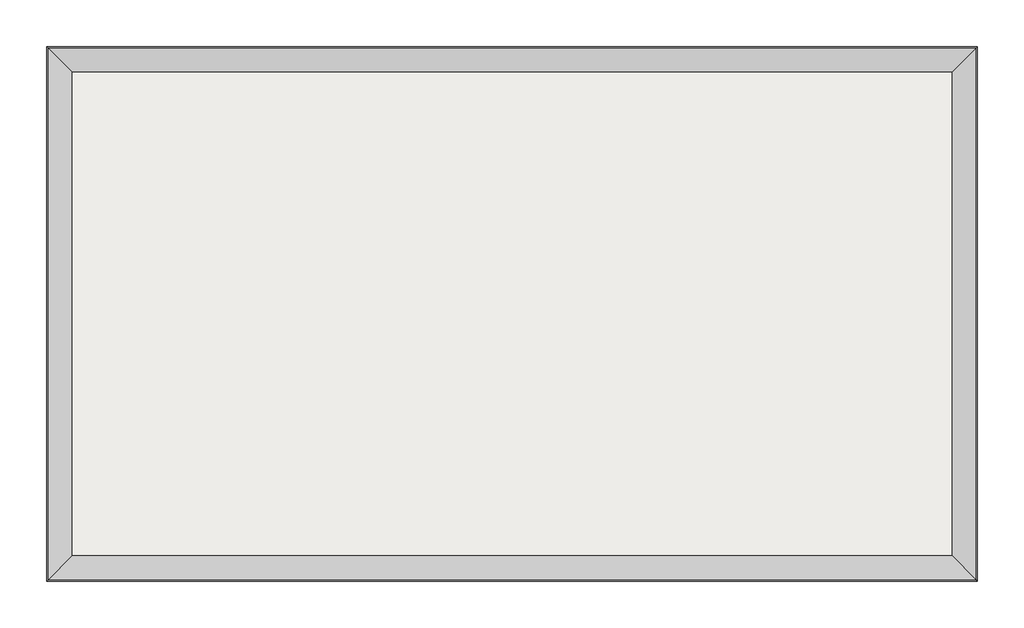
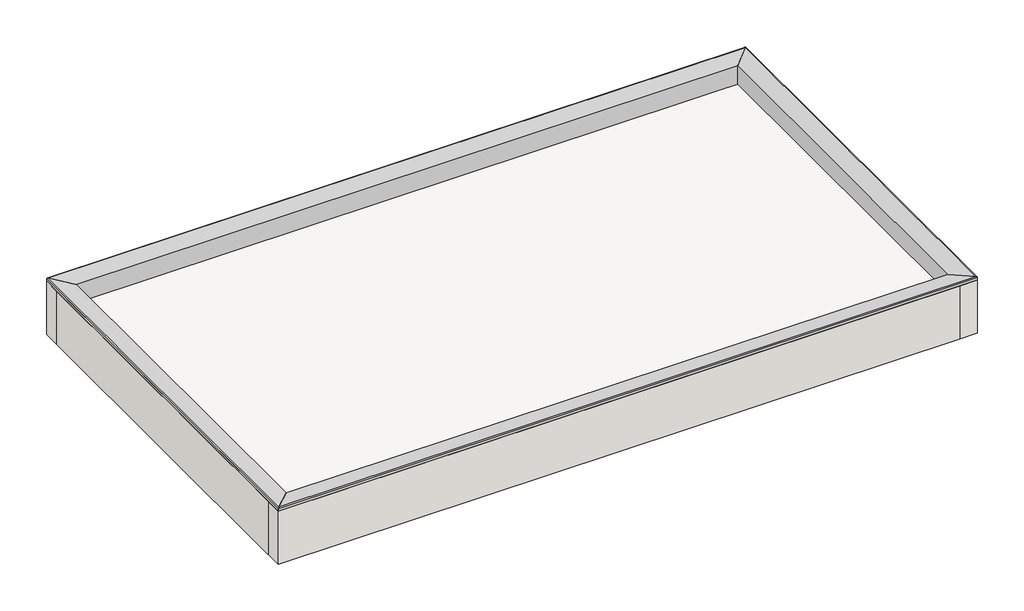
# One storey: 8 proxies, 4 walls, 1 slab.
"""IFC4 building model written with IfcOpenShell, lengths in millimetres."""

import ifcopenshell
import ifcopenshell.guid

model = None  # the IFC model being written
_history = None  # IfcOwnerHistory: only IFC2X3 demands one
_inside = {}  # id of a spatial element -> (the spatial element, [elements in it])
_under = {}  # id of a project, library or spatial element -> (it, [spatial elements below it])
_declared = {}  # id of a project -> (the project, [libraries it declares])
_typed = {}  # id of a type object -> (the type object, [elements of that type])
_made_of = {}  # id of a material, layer set ... -> (it, [elements and type objects made of it])


def new_model(schema):
    """Start an empty IFC model of exactly this schema.

    Asked for "IFC4X3", IfcOpenShell would pick the latest addendum, in which some entities
    have other attributes; the version numbers below select the first issue.
    IFC2X3 requires an IfcOwnerHistory on every rooted entity: one is made here for all.
    """
    global model, _history
    if schema == "IFC4X3":
        model = ifcopenshell.file(schema_version=(4, 3, 0, 0))
    else:
        model = ifcopenshell.file(schema=schema)
    _inside.clear()
    _under.clear()
    _declared.clear()
    _typed.clear()
    _made_of.clear()
    _history = None
    if model.schema == "IFC2X3":
        org = make("IfcOrganization", Name="unknown")
        user = make(
            "IfcPersonAndOrganization",
            ThePerson=make("IfcPerson", FamilyName="unknown"),
            TheOrganization=org,
        )
        app = make(
            "IfcApplication",
            ApplicationDeveloper=org,
            Version="unknown",
            ApplicationFullName="unknown",
            ApplicationIdentifier="unknown",
        )
        _history = make(
            "IfcOwnerHistory",
            OwningUser=user,
            OwningApplication=app,
            ChangeAction="ADDED",
            CreationDate=0,
        )
    return model


def make(cls, **values):
    """One entity of the class cls with the attributes given. An attribute that is None is left unset."""
    return model.create_entity(
        cls, **{name: value for name, value in values.items() if value is not None}
    )


def rooted(cls, **values):
    """An entity with a GlobalId (a new one), such as an element, a storey or a relation."""
    return make(cls, GlobalId=ifcopenshell.guid.new(), OwnerHistory=_history, **values)


def si_unit(unit_type, name, prefix=None):
    """IfcSIUnit, for example si_unit("LENGTHUNIT", "METRE", prefix="MILLI")."""
    return make("IfcSIUnit", UnitType=unit_type, Prefix=prefix, Name=name)


def assignment(units):
    """IfcUnitAssignment: the units of a project."""
    return None if units is None else make("IfcUnitAssignment", Units=units)


def point(xyz):
    """IfcCartesianPoint."""
    return None if xyz is None else make("IfcCartesianPoint", Coordinates=xyz)


def direction(xyz):
    """IfcDirection."""
    return None if xyz is None else make("IfcDirection", DirectionRatios=xyz)


def frame(location, z_axis=None, x_axis=None):
    """IfcAxis2Placement3D, a coordinate frame: its origin and axes. An axis left out is left unset."""
    return make(
        "IfcAxis2Placement3D",
        Location=point(location),
        Axis=direction(z_axis),
        RefDirection=direction(x_axis),
    )


def origin():
    """The frame at (0, 0, 0) with its axes left unset."""
    return frame((0.0, 0.0, 0.0))


def place(relative_to, where):
    """IfcLocalPlacement: puts the frame where relative to a parent placement (None: the world)."""
    return make(
        "IfcLocalPlacement", PlacementRelTo=relative_to, RelativePlacement=where
    )


def context(
    kind, dimensions, precision=None, world=None, true_north=None, identifier=None
):
    """IfcGeometricRepresentationContext, for example the 3D "Model" context."""
    return make(
        "IfcGeometricRepresentationContext",
        ContextIdentifier=identifier,
        ContextType=kind,
        CoordinateSpaceDimension=dimensions,
        Precision=precision,
        WorldCoordinateSystem=world,
        TrueNorth=true_north,
    )


def project(units=None, contexts=None):
    """IfcProject with its units and contexts."""
    return rooted(
        "IfcProject",
        Name="project",
        RepresentationContexts=contexts,
        UnitsInContext=assignment(units),
    )


def spatial(cls, under=None, at=None, **own):
    """A site, building, storey or space (cls), placed at a placement, below another one or the project."""
    s = rooted(cls, ObjectPlacement=at, **own)
    if under is not None:
        _under.setdefault(under.id(), (under, []))[1].append(s)
    return s


def polyline(points):
    """IfcPolyline through the points."""
    return make("IfcPolyline", Points=[point(p) for p in points])


def ellipse_curve(where, semi_axis1, semi_axis2):
    """IfcEllipse in the frame where."""
    return make(
        "IfcEllipse", Position=where, SemiAxis1=semi_axis1, SemiAxis2=semi_axis2
    )


def outline(outer, holes=None, kind="AREA"):
    """IfcArbitraryClosedProfileDef: a profile drawn as a closed curve; with holes, ...WithVoids."""
    if holes is None:
        return make("IfcArbitraryClosedProfileDef", ProfileType=kind, OuterCurve=outer)
    return make(
        "IfcArbitraryProfileDefWithVoids",
        ProfileType=kind,
        OuterCurve=outer,
        InnerCurves=holes,
    )


def extrude(swept, where, along, depth):
    """IfcExtrudedAreaSolid: the profile swept, set in the frame where, extruded along a direction by depth."""
    return make(
        "IfcExtrudedAreaSolid",
        SweptArea=swept,
        Position=where,
        ExtrudedDirection=direction(along),
        Depth=depth,
    )


def faces_of(points, faces, orient=None, outer=None):
    """IfcFace entities. A face is a list of loops; a loop is a list of indices into points, from 0.

    orient and outer hold one flag for each loop. By default every Orientation is true, the
    first loop of a face is its IfcFaceOuterBound and the others are IfcFaceBound.
    """
    made = []
    for i, loops in enumerate(faces):
        bounds = []
        for j, loop in enumerate(loops):
            is_outer = j == 0 if outer is None else outer[i][j]
            bounds.append(
                make(
                    "IfcFaceOuterBound" if is_outer else "IfcFaceBound",
                    Bound=make("IfcPolyLoop", Polygon=[points[k] for k in loop]),
                    Orientation=True if orient is None else orient[i][j],
                )
            )
        made.append(make("IfcFace", Bounds=bounds))
    return made


def faceted_brep(points, faces, orient=None, outer=None, voids=None):
    """IfcFacetedBrep: a solid bounded by flat faces; with voids (closed shells), ...WithVoids."""
    shared = [point(p) for p in points]
    hull = make("IfcClosedShell", CfsFaces=faces_of(shared, faces, orient, outer))
    if voids is None:
        return make("IfcFacetedBrep", Outer=hull)
    return make(
        "IfcFacetedBrepWithVoids",
        Outer=hull,
        Voids=[
            make(cls, CfsFaces=faces_of(shared, fs, o, b)) for cls, fs, o, b in voids
        ],
    )


def shape(context_of_items, identifier, shape_type, items):
    """IfcShapeRepresentation: the items that make up one representation, for example the "Body"."""
    return make(
        "IfcShapeRepresentation",
        ContextOfItems=context_of_items,
        RepresentationIdentifier=identifier,
        RepresentationType=shape_type,
        Items=items,
    )


def made_of(thing, what):
    """Note that an element or type object is made of a material, layer set ...; save() writes the relation."""
    if what is not None:
        _made_of.setdefault(what.id(), (what, []))[1].append(thing)
    return thing


def element(
    cls,
    number,
    at=None,
    inside=None,
    cuts=None,
    type_object=None,
    material=None,
    context=None,
    identifier="Body",
    shape_type=None,
    held_by="IfcProductDefinitionShape",
    body=None,
    shapes=None,
    **own,
):
    """One element of the class cls, such as IfcWall. Its Tag is "e" and its number.

    at: its placement. inside: the storey or other place that contains it. cuts: it is an
    opening in that element (IfcRelVoidsElement). A single representation is given by context,
    identifier, shape_type and body (its items); several are given by shapes. held_by: the class
    of the entity that holds the representations. save() writes the other relations.
    """
    e = rooted(cls, Tag="e%d" % number, ObjectPlacement=at, **own)
    if body is not None:
        shapes = [shape(context, identifier, shape_type, body)]
    if shapes is not None:
        e.Representation = make(held_by, Representations=shapes)
    if inside is not None:
        _inside.setdefault(inside.id(), (inside, []))[1].append(e)
    if cuts is not None:
        rooted(
            "IfcRelVoidsElement", RelatingBuildingElement=cuts, RelatedOpeningElement=e
        )
    if type_object is not None:
        _typed.setdefault(type_object.id(), (type_object, []))[1].append(e)
    return made_of(e, material)


def aggregate(whole, parts):
    """IfcRelAggregates: a whole, such as a stair, and the parts it consists of."""
    return rooted("IfcRelAggregates", RelatingObject=whole, RelatedObjects=parts)


def save(model, path):
    """Write the relations noted so far, then the file.

    IfcRelAggregates (storeys below a building ...), IfcRelContainedInSpatialStructure (elements
    in a storey), IfcRelDefinesByType, IfcRelAssociatesMaterial and IfcRelDeclares: one each for
    every whole, place, type object, material and project.
    """
    for whole, parts in _under.values():
        aggregate(whole, parts)
    for where, things in _inside.values():
        rooted(
            "IfcRelContainedInSpatialStructure",
            RelatedElements=things,
            RelatingStructure=where,
        )
    for kind, things in _typed.values():
        rooted("IfcRelDefinesByType", RelatedObjects=things, RelatingType=kind)
    for what, things in _made_of.values():
        rooted("IfcRelAssociatesMaterial", RelatedObjects=things, RelatingMaterial=what)
    for by, libraries in _declared.values():
        rooted("IfcRelDeclares", RelatingContext=by, RelatedDefinitions=libraries)
    model.write(path)


def plane_surface(at):
    """IfcPlane: the flat surface through the origin of the frame at, square to its z axis."""
    return make("IfcPlane", Position=at)


def cylinder_surface(at, radius):
    """IfcCylindricalSurface: all points at the distance radius from the z axis of the frame at."""
    return make("IfcCylindricalSurface", Position=at, Radius=radius)


def advanced_brep(points, edges, surfaces, faces):
    """IfcAdvancedBrep: a solid bounded by faces that lie on surfaces and meet in shared edges.

    An edge is (start, end): straight between two places in points (the first is 0);
    or (start, end, curve); or (start, end, curve, False) where it runs against its curve.
    A face is (place in surfaces, loops), or (place, loops, False) where it looks against
    its surface's normal. A loop lists edges by number (the first is 1), with a minus sign
    where the edge is run from its end to its start. The first loop is the outer one.
    """
    corners = [point(p) for p in points]
    vertices = [make("IfcVertexPoint", VertexGeometry=c) for c in corners]
    made = []
    for start, end, *more in edges:
        made.append(
            make(
                "IfcEdgeCurve",
                EdgeStart=vertices[start],
                EdgeEnd=vertices[end],
                EdgeGeometry=more[0] if more else make("IfcPolyline", Points=[corners[start], corners[end]]),
                SameSense=more[1] if len(more) > 1 else True,
            )
        )
    hull = []
    for where, loops, *sense in faces:
        bounds = []
        for j, loop in enumerate(loops):
            ring = [make("IfcOrientedEdge", EdgeElement=made[abs(k) - 1], Orientation=k > 0) for k in loop]
            bounds.append(
                make(
                    "IfcFaceOuterBound" if j == 0 else "IfcFaceBound",
                    Bound=make("IfcEdgeLoop", EdgeList=ring),
                    Orientation=True,
                )
            )
        hull.append(make("IfcAdvancedFace", Bounds=bounds, FaceSurface=surfaces[where], SameSense=sense[0] if sense else True))
    return make("IfcAdvancedBrep", Outer=make("IfcClosedShell", CfsFaces=hull))


model = new_model("IFC4")

# Units and contexts
model_context = context("Model", 3, world=origin())
ifc_project = project(units=[si_unit("LENGTHUNIT", "METRE", prefix="MILLI")], contexts=[model_context])

# Site, building, storey
site = spatial("IfcSite", under=ifc_project)
building = spatial("IfcBuilding", under=site)
storey = spatial("IfcBuildingStorey", under=building, Name="PHRFL", Elevation=13300.0)

# Proxies
placement = place(None, origin())
element("IfcBuildingElementProxy", 1, Name="Wall Sweeps", at=placement, inside=storey, context=model_context, shape_type="Brep", body=[
    faceted_brep([(10830.0, 9450.0, 13598.0), (10830.0, 9450.0, 13580.0), (10965.0, 9315.0, 13580.0), (16175.0, 9450.0, 13598.0), (16040.0, 9315.0, 13580.0), (16175.0, 9450.0, 13580.0)], [[[0, 1, 2]], [[3, 4, 5]], [[1, 0, 3, 5]], [[2, 1, 5, 4]], [[0, 2, 4, 3]]]),
])
element("IfcBuildingElementProxy", 2, Name="Wall Sweeps", at=placement, inside=storey, context=model_context, shape_type="Brep", body=[
    faceted_brep([(16175.0, 9450.0, 13598.0), (16175.0, 9450.0, 13580.0), (16040.0, 9315.0, 13580.0), (16175.0, 6380.0, 13598.0), (16040.0, 6515.0, 13580.0), (16175.0, 6380.0, 13580.0), (16175.0, 9315.0, 13580.0)], [[[0, 1, 2]], [[3, 4, 5]], [[1, 0, 3, 5, 6]], [[2, 1, 6, 5, 4]], [[0, 2, 4, 3]]]),
])
element("IfcBuildingElementProxy", 3, Name="Wall Sweeps", at=placement, inside=storey, context=model_context, shape_type="Brep", body=[
    faceted_brep([(16175.0, 6380.0, 13598.0), (16175.0, 6380.0, 13580.0), (16040.0, 6515.0, 13580.0), (10830.0, 6380.0, 13598.0), (10965.0, 6515.0, 13580.0), (10830.0, 6380.0, 13580.0), (16040.0, 6380.0, 13580.0)], [[[0, 1, 2]], [[3, 4, 5]], [[1, 0, 3, 5, 6]], [[2, 1, 6, 5, 4]], [[0, 2, 4, 3]]]),
])
element("IfcBuildingElementProxy", 4, Name="Wall Sweeps", at=placement, inside=storey, context=model_context, shape_type="Brep", body=[
    faceted_brep([(10830.0, 6380.0, 13598.0), (10830.0, 6380.0, 13580.0), (10965.0, 6515.0, 13580.0), (10830.0, 9450.0, 13598.0), (10965.0, 9315.0, 13580.0), (10830.0, 9450.0, 13580.0), (10830.0, 9315.0, 13580.0), (10830.0, 6515.0, 13580.0)], [[[0, 1, 2]], [[3, 4, 5]], [[1, 0, 3, 5, 6, 7]], [[2, 1, 7, 6, 5, 4]], [[0, 2, 4, 3]]]),
])
element("IfcBuildingElementProxy", 5, Name="Wall Sweeps", at=placement, inside=storey, context=model_context, shape_type="AdvancedBrep", body=[
    advanced_brep(
    [(10975.0, 9305.0, 13588.755164), (10838.9016153, 9441.0983847, 13606.9016153), (10830.0, 9450.0, 13598.0), (10965.0, 9315.0, 13580.0), (10965.0, 9315.0, 13440.0), (10975.0, 9305.0, 13440.0), (16166.0983847, 9441.0983847, 13606.9016153), (16030.0, 9305.0, 13588.755164), (16030.0, 9305.0, 13440.0), (16040.0, 9315.0, 13440.0), (16040.0, 9315.0, 13580.0), (16175.0, 9450.0, 13598.0)],
    [
        (0, 1),
        (1, 2, ellipse_curve(frame((10838.9016153, 9441.0983847, 13598.0), z_axis=(-0.7071067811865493, -0.7071067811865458, 0.0), x_axis=(-0.7071067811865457, 0.7071067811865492, 0.0)), 12.588785, 8.9016153)),
        (2, 3),
        (3, 4),
        (4, 5),
        (5, 0),
        (6, 7),
        (7, 8),
        (8, 9),
        (9, 10),
        (10, 11),
        (11, 6, ellipse_curve(frame((16166.0983847, 9441.0983847, 13598.0), z_axis=(0.7071067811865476, -0.7071067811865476, 0.0), x_axis=(-0.7071067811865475, -0.7071067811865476, 0.0)), 12.588785, 8.9016153)),
        (3, 10),
        (9, 4),
        (7, 0),
        (5, 8),
        (6, 1),
        (11, 2),
    ],
    [
        plane_surface(frame((10830.0, 9450.0, 13884.8), z_axis=(-0.7071067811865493, -0.7071067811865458, 0.0), x_axis=(0.7071067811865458, -0.7071067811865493, 0.0))),
        plane_surface(frame((16175.0, 9450.0, 13884.8), z_axis=(0.7071067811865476, -0.7071067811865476, 0.0), x_axis=(-0.7071067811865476, -0.7071067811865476, 0.0))),
        plane_surface(frame((10965.0, 9315.0, 13580.0), z_axis=(0.0, 1.0, 0.0), x_axis=(1.0, 0.0, 0.0))),
        plane_surface(frame((10975.0, 9305.0, 13300.0), z_axis=(0.0, -1.0, 0.0), x_axis=(1.0, 0.0, 0.0))),
        plane_surface(frame((10975.0, 9305.0, 13588.755164), z_axis=(0.0, -0.13216372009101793, 0.9912279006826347), x_axis=(1.0, 0.0, 0.0))),
        cylinder_surface(frame((10830.0, 9441.0983847, 13598.0), z_axis=(-1.0, 0.0, 0.0), x_axis=(0.0, 1.0, 0.0)), 8.9016153),
        plane_surface(frame((10830.0, 9450.0, 13598.0), z_axis=(0.0, 0.13216372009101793, -0.9912279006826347), x_axis=(1.0, 0.0, 0.0))),
        plane_surface(frame((16040.0, 9315.0, 13440.0), z_axis=(0.0, 0.0, -1.0), x_axis=(0.0, 1.0, 0.0))),
    ],
    [
        (0, [[1, 2, 3, 4, 5, 6]]),
        (1, [[7, 8, 9, 10, 11, 12]]),
        (2, [[13, -10, 14, -4]]),
        (3, [[15, -6, 16, -8]]),
        (4, [[-1, -15, -7, 17]]),
        (5, [[-2, -17, -12, 18]]),
        (6, [[-3, -18, -11, -13]]),
        (7, [[-5, -14, -9, -16]]),
    ],
),
])
element("IfcBuildingElementProxy", 6, Name="Wall Sweeps", at=placement, inside=storey, context=model_context, shape_type="AdvancedBrep", body=[
    advanced_brep(
    [(16030.0, 9305.0, 13588.755164), (16166.0983847, 9441.0983847, 13606.9016153), (16175.0, 9450.0, 13598.0), (16040.0, 9315.0, 13580.0), (16040.0, 9315.0, 13440.0), (16030.0, 9305.0, 13440.0), (16166.0983847, 6388.9016153, 13606.9016153), (16030.0, 6525.0, 13588.755164), (16030.0, 6525.0, 13440.0), (16040.0, 6515.0, 13440.0), (16040.0, 6515.0, 13580.0), (16175.0, 6380.0, 13598.0)],
    [
        (0, 1),
        (1, 2, ellipse_curve(frame((16166.0983847, 9441.0983847, 13598.0), z_axis=(-0.7071067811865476, 0.7071067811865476, 0.0), x_axis=(0.7071067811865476, 0.7071067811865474, 0.0)), 12.588785, 8.9016153)),
        (2, 3),
        (3, 4),
        (4, 5),
        (5, 0),
        (6, 7),
        (7, 8),
        (8, 9),
        (9, 10),
        (10, 11),
        (11, 6, ellipse_curve(frame((16166.0983847, 6388.9016153, 13598.0), z_axis=(-0.7071067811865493, -0.7071067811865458, 0.0), x_axis=(-0.7071067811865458, 0.7071067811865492, 0.0)), 12.588785, 8.9016153)),
        (3, 10),
        (9, 4),
        (7, 0),
        (5, 8),
        (6, 1),
        (11, 2),
    ],
    [
        plane_surface(frame((16175.0, 9450.0, 13884.8), z_axis=(-0.7071067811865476, 0.7071067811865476, 0.0), x_axis=(-0.7071067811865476, -0.7071067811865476, 0.0))),
        plane_surface(frame((16175.0, 6380.0, 13884.8), z_axis=(-0.7071067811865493, -0.7071067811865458, 0.0), x_axis=(-0.7071067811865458, 0.7071067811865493, 0.0))),
        plane_surface(frame((16040.0, 9315.0, 13580.0), z_axis=(1.0, 0.0, 0.0), x_axis=(0.0, -1.0, 0.0))),
        plane_surface(frame((16030.0, 9305.0, 13300.0), z_axis=(-1.0, 0.0, 0.0), x_axis=(0.0, -1.0, 0.0))),
        plane_surface(frame((16030.0, 9305.0, 13588.755164), z_axis=(-0.13216372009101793, 0.0, 0.9912279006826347), x_axis=(0.0, -1.0, 0.0))),
        cylinder_surface(frame((16166.0983847, 9450.0, 13598.0), z_axis=(0.0, 1.0, 0.0), x_axis=(1.0, 0.0, 0.0)), 8.9016153),
        plane_surface(frame((16175.0, 9450.0, 13598.0), z_axis=(0.13216372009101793, 0.0, -0.9912279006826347), x_axis=(0.0, -1.0, 0.0))),
        plane_surface(frame((16040.0, 9315.0, 13440.0), z_axis=(0.0, 0.0, -1.0), x_axis=(0.0, 1.0, 0.0))),
    ],
    [
        (0, [[1, 2, 3, 4, 5, 6]]),
        (1, [[7, 8, 9, 10, 11, 12]]),
        (2, [[13, -10, 14, -4]]),
        (3, [[15, -6, 16, -8]]),
        (4, [[-1, -15, -7, 17]]),
        (5, [[-2, -17, -12, 18]]),
        (6, [[-3, -18, -11, -13]]),
        (7, [[-5, -14, -9, -16]]),
    ],
),
])
element("IfcBuildingElementProxy", 7, Name="Wall Sweeps", at=placement, inside=storey, context=model_context, shape_type="AdvancedBrep", body=[
    advanced_brep(
    [(16030.0, 6525.0, 13588.755164), (16166.0983847, 6388.9016153, 13606.9016153), (16175.0, 6380.0, 13598.0), (16040.0, 6515.0, 13580.0), (16040.0, 6515.0, 13440.0), (16030.0, 6525.0, 13440.0), (10838.9016153, 6388.9016153, 13606.9016153), (10975.0, 6525.0, 13588.755164), (10975.0, 6525.0, 13440.0), (10965.0, 6515.0, 13440.0), (10965.0, 6515.0, 13580.0), (10830.0, 6380.0, 13598.0)],
    [
        (0, 1),
        (1, 2, ellipse_curve(frame((16166.0983847, 6388.9016153, 13598.0), z_axis=(0.7071067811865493, 0.7071067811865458, 0.0), x_axis=(0.7071067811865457, -0.7071067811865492, 0.0)), 12.588785, 8.9016153)),
        (2, 3),
        (3, 4),
        (4, 5),
        (5, 0),
        (6, 7),
        (7, 8),
        (8, 9),
        (9, 10),
        (10, 11),
        (11, 6, ellipse_curve(frame((10838.9016153, 6388.9016153, 13598.0), z_axis=(-0.7071067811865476, 0.7071067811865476, 0.0), x_axis=(0.7071067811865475, 0.7071067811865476, 0.0)), 12.588785, 8.9016153)),
        (3, 10),
        (9, 4),
        (7, 0),
        (5, 8),
        (6, 1),
        (11, 2),
    ],
    [
        plane_surface(frame((16175.0, 6380.0, 13884.8), z_axis=(0.7071067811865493, 0.7071067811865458, 0.0), x_axis=(-0.7071067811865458, 0.7071067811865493, 0.0))),
        plane_surface(frame((10830.0, 6380.0, 13884.8), z_axis=(-0.7071067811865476, 0.7071067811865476, 0.0), x_axis=(0.7071067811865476, 0.7071067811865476, 0.0))),
        plane_surface(frame((16040.0, 6515.0, 13580.0), z_axis=(0.0, -1.0, 0.0), x_axis=(-1.0, 0.0, 0.0))),
        plane_surface(frame((16030.0, 6525.0, 13300.0), z_axis=(0.0, 1.0, 0.0), x_axis=(-1.0, 0.0, 0.0))),
        plane_surface(frame((16030.0, 6525.0, 13588.755164), z_axis=(0.0, 0.13216372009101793, 0.9912279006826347), x_axis=(-1.0, 0.0, 0.0))),
        cylinder_surface(frame((16175.0, 6388.9016153, 13598.0), z_axis=(1.0, 0.0, 0.0), x_axis=(0.0, -1.0, 0.0)), 8.9016153),
        plane_surface(frame((16175.0, 6380.0, 13598.0), z_axis=(0.0, -0.13216372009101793, -0.9912279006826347), x_axis=(-1.0, 0.0, 0.0))),
        plane_surface(frame((16040.0, 9315.0, 13440.0), z_axis=(0.0, 0.0, -1.0), x_axis=(0.0, 1.0, 0.0))),
    ],
    [
        (0, [[1, 2, 3, 4, 5, 6]]),
        (1, [[7, 8, 9, 10, 11, 12]]),
        (2, [[13, -10, 14, -4]]),
        (3, [[15, -6, 16, -8]]),
        (4, [[-1, -15, -7, 17]]),
        (5, [[-2, -17, -12, 18]]),
        (6, [[-3, -18, -11, -13]]),
        (7, [[-5, -14, -9, -16]]),
    ],
),
])
element("IfcBuildingElementProxy", 8, Name="Wall Sweeps", at=placement, inside=storey, context=model_context, shape_type="AdvancedBrep", body=[
    advanced_brep(
    [(10975.0, 6525.0, 13588.755164), (10838.9016153, 6388.9016153, 13606.9016153), (10830.0, 6380.0, 13598.0), (10965.0, 6515.0, 13580.0), (10965.0, 6515.0, 13440.0), (10975.0, 6525.0, 13440.0), (10838.9016153, 9441.0983847, 13606.9016153), (10975.0, 9305.0, 13588.755164), (10975.0, 9305.0, 13440.0), (10965.0, 9315.0, 13440.0), (10965.0, 9315.0, 13580.0), (10830.0, 9450.0, 13598.0)],
    [
        (0, 1),
        (1, 2, ellipse_curve(frame((10838.9016153, 6388.9016153, 13598.0), z_axis=(0.7071067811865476, -0.7071067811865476, 0.0), x_axis=(-0.7071067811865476, -0.7071067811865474, 0.0)), 12.588785, 8.9016153)),
        (2, 3),
        (3, 4),
        (4, 5),
        (5, 0),
        (6, 7),
        (7, 8),
        (8, 9),
        (9, 10),
        (10, 11),
        (11, 6, ellipse_curve(frame((10838.9016153, 9441.0983847, 13598.0), z_axis=(0.7071067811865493, 0.7071067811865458, 0.0), x_axis=(0.7071067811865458, -0.7071067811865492, 0.0)), 12.588785, 8.9016153)),
        (3, 10),
        (9, 4),
        (7, 0),
        (5, 8),
        (6, 1),
        (11, 2),
    ],
    [
        plane_surface(frame((10830.0, 6380.0, 13884.8), z_axis=(0.7071067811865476, -0.7071067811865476, 0.0), x_axis=(0.7071067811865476, 0.7071067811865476, 0.0))),
        plane_surface(frame((10830.0, 9450.0, 13884.8), z_axis=(0.7071067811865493, 0.7071067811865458, 0.0), x_axis=(0.7071067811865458, -0.7071067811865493, 0.0))),
        plane_surface(frame((10965.0, 6515.0, 13580.0), z_axis=(-1.0, 0.0, 0.0), x_axis=(0.0, 1.0, 0.0))),
        plane_surface(frame((10975.0, 6525.0, 13300.0), z_axis=(1.0, 0.0, 0.0), x_axis=(0.0, 1.0, 0.0))),
        plane_surface(frame((10975.0, 6525.0, 13588.755164), z_axis=(0.13216372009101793, 0.0, 0.9912279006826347), x_axis=(0.0, 1.0, 0.0))),
        cylinder_surface(frame((10838.9016153, 6380.0, 13598.0), z_axis=(0.0, -1.0, 0.0), x_axis=(-1.0, 0.0, 0.0)), 8.9016153),
        plane_surface(frame((10830.0, 6380.0, 13598.0), z_axis=(-0.13216372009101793, 0.0, -0.9912279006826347), x_axis=(0.0, 1.0, 0.0))),
        plane_surface(frame((16052.5, 9315.0, 13440.0), z_axis=(0.0, 0.0, -1.0), x_axis=(0.0, 1.0, 0.0))),
    ],
    [
        (0, [[1, 2, 3, 4, 5, 6]]),
        (1, [[7, 8, 9, 10, 11, 12]]),
        (2, [[13, -10, 14, -4]]),
        (3, [[15, -6, 16, -8]]),
        (4, [[-1, -15, -7, 17]]),
        (5, [[-2, -17, -12, 18]]),
        (6, [[-3, -18, -11, -13]]),
        (7, [[-5, -14, -9, -16]]),
    ],
),
])

# Slab
element("IfcSlab", 9, ObjectType="省エネ_RC屋根スラブ\u3000t150の上、アスファルト防水、押出法ポリスチレンフォーム1種t50、押さえコン", at=placement, inside=storey, context=model_context, shape_type="SweptSolid", body=[
    extrude(outline(polyline([(16040.0, 9315.0), (16040.0, 6515.0), (10965.0, 6515.0), (10965.0, 9315.0), (16040.0, 9315.0)])), frame((0.0, 0.0, 13150.0), z_axis=(0.0, 0.0, 1.0), x_axis=(1.0, 0.0, 0.0)), (0.0, 0.0, 1.0), 290.0),
])

# Walls
element("IfcWall", 10, ObjectType="•PRP 135", at=placement, inside=storey, context=model_context, shape_type="Brep", body=[
    faceted_brep([(10830.0, 9315.0, 13150.0), (10965.0, 9315.0, 13150.0), (16040.0, 9315.0, 13150.0), (16175.0, 9315.0, 13150.0), (16175.0, 9315.0, 13580.0), (16040.0, 9315.0, 13580.0), (10965.0, 9315.0, 13580.0), (10830.0, 9315.0, 13580.0), (16175.0, 9450.0, 13150.0), (10975.0, 9450.0, 13150.0), (10830.0, 9450.0, 13150.0), (10830.0, 9450.0, 13580.0), (16175.0, 9450.0, 13580.0)], [[[0, 1, 2, 3, 4, 5, 6, 7]], [[8, 9, 10, 11, 12]], [[3, 2, 1, 0, 10, 9, 8]], [[12, 11, 7, 6, 5, 4]], [[0, 7, 11, 10]], [[4, 3, 8, 12]]]),
])
element("IfcWall", 11, ObjectType="•PRP 135", at=placement, inside=storey, context=model_context, shape_type="Brep", body=[
    faceted_brep([(16040.0, 9315.0, 13150.0), (16040.0, 6515.0, 13150.0), (16040.0, 6380.0, 13150.0), (16040.0, 6380.0, 13580.0), (16040.0, 6515.0, 13580.0), (16040.0, 9315.0, 13580.0), (16040.0, 9315.0, 13300.0), (16175.0, 6380.0, 13150.0), (16175.0, 6525.0, 13150.0), (16175.0, 9305.0, 13150.0), (16175.0, 9315.0, 13150.0), (16175.0, 9315.0, 13580.0), (16175.0, 6380.0, 13580.0)], [[[0, 1, 2, 3, 4, 5, 6]], [[7, 8, 9, 10, 11, 12]], [[2, 1, 0, 10, 9, 8, 7]], [[12, 11, 5, 4, 3]], [[3, 2, 7, 12]], [[5, 11, 10, 0, 6]]]),
])
element("IfcWall", 12, ObjectType="•PRP 135", at=placement, inside=storey, context=model_context, shape_type="Brep", body=[
    faceted_brep([(16040.0, 6515.0, 13150.0), (10965.0, 6515.0, 13150.0), (10830.0, 6515.0, 13150.0), (10830.0, 6515.0, 13580.0), (10965.0, 6515.0, 13580.0), (16040.0, 6515.0, 13580.0), (16040.0, 6515.0, 13440.0), (16040.0, 6515.0, 13300.0), (10830.0, 6380.0, 13150.0), (16040.0, 6380.0, 13150.0), (16040.0, 6380.0, 13580.0), (10830.0, 6380.0, 13580.0)], [[[0, 1, 2, 3, 4, 5, 6, 7]], [[8, 9, 10, 11]], [[2, 1, 0, 9, 8]], [[11, 10, 5, 4, 3]], [[5, 10, 9, 0, 7, 6]], [[3, 2, 8, 11]]]),
])
element("IfcWall", 13, ObjectType="•PRP 135", at=placement, inside=storey, context=model_context, shape_type="Brep", body=[
    faceted_brep([(10965.0, 6515.0, 13150.0), (10965.0, 9315.0, 13150.0), (10965.0, 9315.0, 13300.0), (10965.0, 9315.0, 13580.0), (10965.0, 6515.0, 13580.0), (10965.0, 6515.0, 13300.0), (10830.0, 9315.0, 13150.0), (10830.0, 6525.0, 13150.0), (10830.0, 6515.0, 13150.0), (10830.0, 6515.0, 13580.0), (10830.0, 9315.0, 13580.0)], [[[0, 1, 2, 3, 4, 5]], [[6, 7, 8, 9, 10]], [[1, 0, 8, 7, 6]], [[4, 3, 10, 9]], [[4, 9, 8, 0, 5]], [[1, 6, 10, 3, 2]]]),
])

save(model, "model.ifc")
